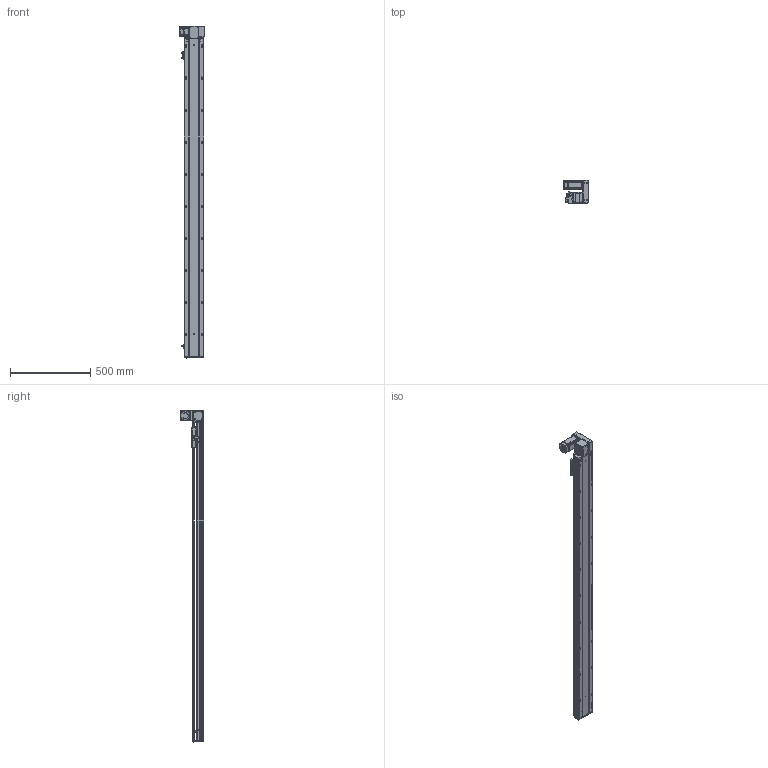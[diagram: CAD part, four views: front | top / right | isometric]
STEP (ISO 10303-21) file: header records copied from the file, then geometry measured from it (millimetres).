
FILE_DESCRIPTION (( 'STEP AP203' ), '1' );
FILE_NAME ('RY120-T-300-UR.SLDASM_1750.step', '2021-03-01T05:57:56', ( '盈信电脑' ), ( '东莞市道滘镇水果街19号' ), 'SwSTEP 2.0', 'SolidWorks 2012', '' );
FILE_SCHEMA (( 'CONFIG_CONTROL_DESIGN' ));
Length unit declared in the file: millimetre
Products named in the file (17): RY120-T-300-UR.SLDASM_1750; RY120-T主同步轮轴承压盖; RY120-T萇儂欶; RY120-T蹟翐M4; 15; 滅袉蝶18-10; RY120-T翋肮祭謫裔啣; RY120-T翋肮祭盓傅釱; RY120-T肮祭湍揤踡輸2; RY120-T萇儂假蚾啣; RY120-T肮祭湍揤踡輸1; 覜茼ん672; RY120肮祭湍臏賑輸; RY120-T-300-UR倰第奻裔啣_1750; RY120綴裔啣; RY120-T-300-UR倰第菁釱_1750; RY120外置感应片(140共用）
Assembly tree (22 placements, depth 2):
  RY120-T-300-UR.SLDASM_1750
    RY120-T-300-UR倰第菁釱_1750
    RY120-T-300-UR倰第奻裔啣_1750
    RY120肮祭湍臏賑輸
    RY120綴裔啣
    覜茼ん672  x3
    RY120外置感应片(140共用）
    RY120-T肮祭湍揤踡輸1
    RY120-T肮祭湍揤踡輸2
    RY120-T翋肮祭盓傅釱
    RY120-T萇儂假蚾啣
    滅袉蝶18-10  x2
    RY120-T翋肮祭謫裔啣
    15
    RY120-T蹟翐M4  x4
    RY120-T萇儂欶
    RY120-T主同步轮轴承压盖
Bounding box: 155.5 x 146 x 2071 mm (x, y, z)
Volume: 5259163.7 mm3; surface area: 2001393.9 mm2
Topology: 23 solids, 23 shells, 3042 faces, 8316 edges, 5304 vertices
Faces by surface type: plane 1442, cylinder 1204, cone 307, bspline 89
Entity records: 97575 total; most frequent: CARTESIAN_POINT 25338, ORIENTED_EDGE 14952, DIRECTION 14118, EDGE_CURVE 7476, VERTEX_POINT 4891, AXIS2_PLACEMENT_3D 4783, LINE 4552, VECTOR 4552
